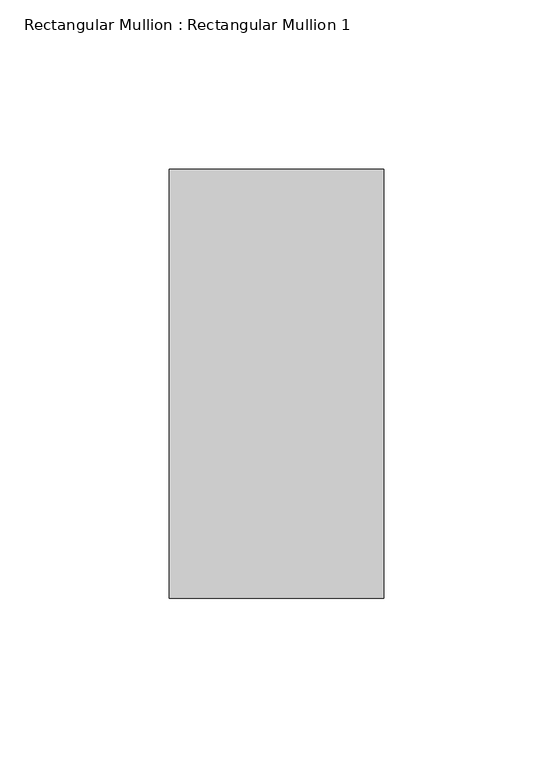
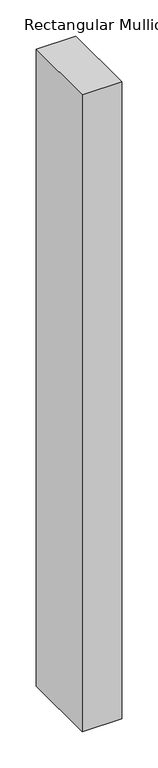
"""IFC4 building model written with IfcOpenShell, lengths in millimetres: member geometry, Rectangular Mullion : Rectangular Mullion 1."""

import ifcopenshell
import ifcopenshell.guid

model = None  # the IFC model being written
_history = None  # IfcOwnerHistory: only IFC2X3 demands one
_inside = {}  # id of a spatial element -> (the spatial element, [elements in it])
_under = {}  # id of a project, library or spatial element -> (it, [spatial elements below it])
_declared = {}  # id of a project -> (the project, [libraries it declares])
_typed = {}  # id of a type object -> (the type object, [elements of that type])
_made_of = {}  # id of a material, layer set ... -> (it, [elements and type objects made of it])


def new_model(schema):
    """Start an empty IFC model of exactly this schema.

    Asked for "IFC4X3", IfcOpenShell would pick the latest addendum, in which some entities
    have other attributes; the version numbers below select the first issue.
    IFC2X3 requires an IfcOwnerHistory on every rooted entity: one is made here for all.
    """
    global model, _history
    if schema == "IFC4X3":
        model = ifcopenshell.file(schema_version=(4, 3, 0, 0))
    else:
        model = ifcopenshell.file(schema=schema)
    _inside.clear()
    _under.clear()
    _declared.clear()
    _typed.clear()
    _made_of.clear()
    _history = None
    if model.schema == "IFC2X3":
        org = make("IfcOrganization", Name="unknown")
        user = make(
            "IfcPersonAndOrganization",
            ThePerson=make("IfcPerson", FamilyName="unknown"),
            TheOrganization=org,
        )
        app = make(
            "IfcApplication",
            ApplicationDeveloper=org,
            Version="unknown",
            ApplicationFullName="unknown",
            ApplicationIdentifier="unknown",
        )
        _history = make(
            "IfcOwnerHistory",
            OwningUser=user,
            OwningApplication=app,
            ChangeAction="ADDED",
            CreationDate=0,
        )
    return model


def make(cls, **values):
    """One entity of the class cls with the attributes given. An attribute that is None is left unset."""
    return model.create_entity(
        cls, **{name: value for name, value in values.items() if value is not None}
    )


def rooted(cls, **values):
    """An entity with a GlobalId (a new one), such as an element, a storey or a relation."""
    return make(cls, GlobalId=ifcopenshell.guid.new(), OwnerHistory=_history, **values)


def si_unit(unit_type, name, prefix=None):
    """IfcSIUnit, for example si_unit("LENGTHUNIT", "METRE", prefix="MILLI")."""
    return make("IfcSIUnit", UnitType=unit_type, Prefix=prefix, Name=name)


def assignment(units):
    """IfcUnitAssignment: the units of a project."""
    return None if units is None else make("IfcUnitAssignment", Units=units)


def point(xyz):
    """IfcCartesianPoint."""
    return None if xyz is None else make("IfcCartesianPoint", Coordinates=xyz)


def direction(xyz):
    """IfcDirection."""
    return None if xyz is None else make("IfcDirection", DirectionRatios=xyz)


def frame(location, z_axis=None, x_axis=None):
    """IfcAxis2Placement3D, a coordinate frame: its origin and axes. An axis left out is left unset."""
    return make(
        "IfcAxis2Placement3D",
        Location=point(location),
        Axis=direction(z_axis),
        RefDirection=direction(x_axis),
    )


def origin():
    """The frame at (0, 0, 0) with its axes left unset."""
    return frame((0.0, 0.0, 0.0))


def place(relative_to, where):
    """IfcLocalPlacement: puts the frame where relative to a parent placement (None: the world)."""
    return make(
        "IfcLocalPlacement", PlacementRelTo=relative_to, RelativePlacement=where
    )


def context(
    kind, dimensions, precision=None, world=None, true_north=None, identifier=None
):
    """IfcGeometricRepresentationContext, for example the 3D "Model" context."""
    return make(
        "IfcGeometricRepresentationContext",
        ContextIdentifier=identifier,
        ContextType=kind,
        CoordinateSpaceDimension=dimensions,
        Precision=precision,
        WorldCoordinateSystem=world,
        TrueNorth=true_north,
    )


def project(units=None, contexts=None):
    """IfcProject with its units and contexts."""
    return rooted(
        "IfcProject",
        Name="project",
        RepresentationContexts=contexts,
        UnitsInContext=assignment(units),
    )


def spatial(cls, under=None, at=None, **own):
    """A site, building, storey or space (cls), placed at a placement, below another one or the project."""
    s = rooted(cls, ObjectPlacement=at, **own)
    if under is not None:
        _under.setdefault(under.id(), (under, []))[1].append(s)
    return s


def polyline(points):
    """IfcPolyline through the points."""
    return make("IfcPolyline", Points=[point(p) for p in points])


def outline(outer, holes=None, kind="AREA"):
    """IfcArbitraryClosedProfileDef: a profile drawn as a closed curve; with holes, ...WithVoids."""
    if holes is None:
        return make("IfcArbitraryClosedProfileDef", ProfileType=kind, OuterCurve=outer)
    return make(
        "IfcArbitraryProfileDefWithVoids",
        ProfileType=kind,
        OuterCurve=outer,
        InnerCurves=holes,
    )


def extrude(swept, where, along, depth):
    """IfcExtrudedAreaSolid: the profile swept, set in the frame where, extruded along a direction by depth."""
    return make(
        "IfcExtrudedAreaSolid",
        SweptArea=swept,
        Position=where,
        ExtrudedDirection=direction(along),
        Depth=depth,
    )


def shape(context_of_items, identifier, shape_type, items):
    """IfcShapeRepresentation: the items that make up one representation, for example the "Body"."""
    return make(
        "IfcShapeRepresentation",
        ContextOfItems=context_of_items,
        RepresentationIdentifier=identifier,
        RepresentationType=shape_type,
        Items=items,
    )


def source(mapping_origin, context_of_items, identifier, shape_type, items):
    """IfcRepresentationMap: a shape defined once, which mapped items show again and again."""
    return make(
        "IfcRepresentationMap",
        MappingOrigin=mapping_origin,
        MappedRepresentation=shape(context_of_items, identifier, shape_type, items),
    )


def transform(
    local_origin,
    x_axis=None,
    y_axis=None,
    z_axis=None,
    scale=None,
    scale2=None,
    scale3=None,
    uniform=True,
):
    """IfcCartesianTransformationOperator3D, or its non-uniform kind. x_axis, y_axis, z_axis: its Axis1, 2, 3."""
    if uniform:
        return make(
            "IfcCartesianTransformationOperator3D",
            Axis1=direction(x_axis),
            Axis2=direction(y_axis),
            LocalOrigin=point(local_origin),
            Scale=scale,
            Axis3=direction(z_axis),
        )
    return make(
        "IfcCartesianTransformationOperator3DnonUniform",
        Axis1=direction(x_axis),
        Axis2=direction(y_axis),
        LocalOrigin=point(local_origin),
        Scale=scale,
        Axis3=direction(z_axis),
        Scale2=scale2,
        Scale3=scale3,
    )


def mapped(mapping_source, mapping_target):
    """IfcMappedItem: shows the shape of a source again, moved by a transform."""
    return make(
        "IfcMappedItem", MappingSource=mapping_source, MappingTarget=mapping_target
    )


def made_of(thing, what):
    """Note that an element or type object is made of a material, layer set ...; save() writes the relation."""
    if what is not None:
        _made_of.setdefault(what.id(), (what, []))[1].append(thing)
    return thing


def element(
    cls,
    number,
    at=None,
    inside=None,
    cuts=None,
    type_object=None,
    material=None,
    context=None,
    identifier="Body",
    shape_type=None,
    held_by="IfcProductDefinitionShape",
    body=None,
    shapes=None,
    **own,
):
    """One element of the class cls, such as IfcWall. Its Tag is "e" and its number.

    at: its placement. inside: the storey or other place that contains it. cuts: it is an
    opening in that element (IfcRelVoidsElement). A single representation is given by context,
    identifier, shape_type and body (its items); several are given by shapes. held_by: the class
    of the entity that holds the representations. save() writes the other relations.
    """
    e = rooted(cls, Tag="e%d" % number, ObjectPlacement=at, **own)
    if body is not None:
        shapes = [shape(context, identifier, shape_type, body)]
    if shapes is not None:
        e.Representation = make(held_by, Representations=shapes)
    if inside is not None:
        _inside.setdefault(inside.id(), (inside, []))[1].append(e)
    if cuts is not None:
        rooted(
            "IfcRelVoidsElement", RelatingBuildingElement=cuts, RelatedOpeningElement=e
        )
    if type_object is not None:
        _typed.setdefault(type_object.id(), (type_object, []))[1].append(e)
    return made_of(e, material)


def aggregate(whole, parts):
    """IfcRelAggregates: a whole, such as a stair, and the parts it consists of."""
    return rooted("IfcRelAggregates", RelatingObject=whole, RelatedObjects=parts)


def save(model, path):
    """Write the relations noted so far, then the file.

    IfcRelAggregates (storeys below a building ...), IfcRelContainedInSpatialStructure (elements
    in a storey), IfcRelDefinesByType, IfcRelAssociatesMaterial and IfcRelDeclares: one each for
    every whole, place, type object, material and project.
    """
    for whole, parts in _under.values():
        aggregate(whole, parts)
    for where, things in _inside.values():
        rooted(
            "IfcRelContainedInSpatialStructure",
            RelatedElements=things,
            RelatingStructure=where,
        )
    for kind, things in _typed.values():
        rooted("IfcRelDefinesByType", RelatedObjects=things, RelatingType=kind)
    for what, things in _made_of.values():
        rooted("IfcRelAssociatesMaterial", RelatedObjects=things, RelatingMaterial=what)
    for by, libraries in _declared.values():
        rooted("IfcRelDeclares", RelatingContext=by, RelatedDefinitions=libraries)
    model.write(path)


def rectangular_mullion_rectangular_mullion_1_668be47d(model_context):
    return source(origin(), model_context, "Body", "SweptSolid", [
        extrude(outline(polyline([(31.75, 63.5), (31.75, -63.5), (-31.75, -63.5), (-31.75, 63.5), (31.75, 63.5)])), frame((0.0, 0.0, -1075.8714286), z_axis=(0.0, 0.0, 1.0), x_axis=(1.0, 0.0, 0.0)), (0.0, 0.0, 1.0), 1075.8714286),
    ])


if __name__ == "__main__":
    model = new_model("IFC4")
    model_context = context("Model", 3, world=origin())
    ifc_project = project(units=[si_unit("LENGTHUNIT", "METRE", prefix="MILLI")], contexts=[model_context])
    site = spatial("IfcSite", under=ifc_project)
    building = spatial("IfcBuilding", under=site)
    placement = place(None, origin())
    rectangular_mullion_rectangular_mullion_1_shape = rectangular_mullion_rectangular_mullion_1_668be47d(model_context)
    element("IfcMember", 1, ObjectType="Rectangular Mullion : Rectangular Mullion 1", at=placement, inside=building, context=model_context, shape_type="MappedRepresentation", body=[
        mapped(rectangular_mullion_rectangular_mullion_1_shape, transform((0.0, 0.0, 0.0), x_axis=(1.0, 0.0, 0.0), y_axis=(0.0, 1.0, 0.0), z_axis=(0.0, 0.0, 1.0))),
    ])
    save(model, "model.ifc")
